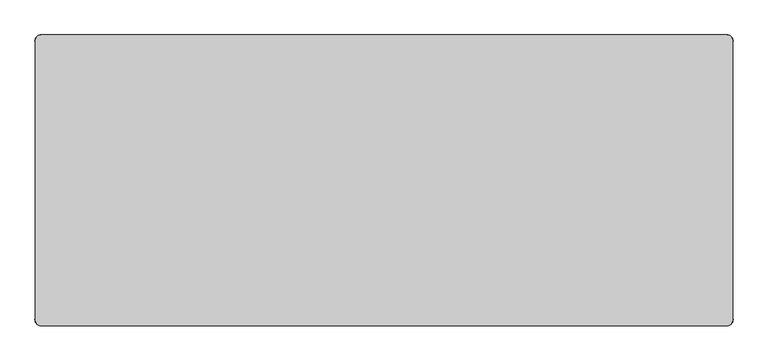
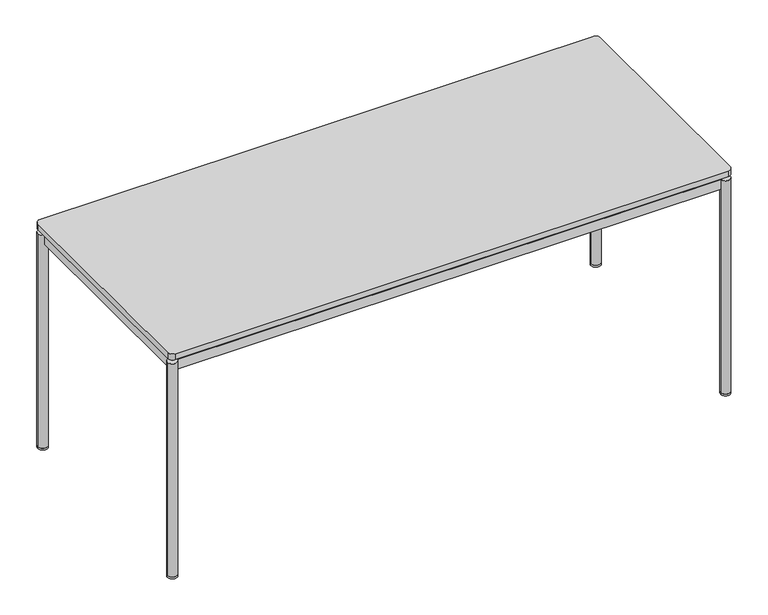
"""IFC4 building model written with IfcOpenShell, lengths in millimetres: furniture geometry, Geiger_GeigerOneCasegoods_TableParsonsStoneTop : 72Wx30Dx29.75H."""

from ifc_helpers import new_model, si_unit, point, frame, frame_2d, origin, origin_with_axes, place, context, project, spatial, polyline, circle_curve, trimmed, segment, composite_curve, outline, extrude, source, transform, mapped, element, save
from ifc_brep_helpers import plane_surface, cylinder_surface, advanced_brep


def furniture_329ff6ae(model_context):
    return source(origin(), model_context, "Body", "SolidModel", [
        extrude(outline(composite_curve([segment(trimmed(circle_curve(frame_2d((1812.925, -15.875)), 15.875), [point((1812.925, 0.0))], [point((1828.8, -15.875))], False, "CARTESIAN"), True, "CONTINUOUS"), segment(polyline([(1828.8, -15.875), (1828.8, -746.125)]), True, "CONTINUOUS"), segment(trimmed(circle_curve(frame_2d((1812.925, -746.125)), 15.875), [point((1828.8, -746.125))], [point((1812.925, -762.0))], False, "CARTESIAN"), True, "CONTINUOUS"), segment(polyline([(1812.925, -762.0), (15.875, -762.0)]), True, "CONTINUOUS"), segment(trimmed(circle_curve(frame_2d((15.875, -746.125)), 15.875), [point((15.875, -762.0))], [point((0.0, -746.125))], False, "CARTESIAN"), True, "CONTINUOUS"), segment(polyline([(0.0, -746.125), (0.0, -15.875)]), True, "CONTINUOUS"), segment(trimmed(circle_curve(frame_2d((15.875, -15.875)), 15.875), [point((0.0, -15.875))], [point((15.875, 0.0))], False, "CARTESIAN"), True, "CONTINUOUS"), segment(polyline([(15.875, 0.0), (1812.925, 0.0)]), True, "CONTINUOUS")], self_intersect=False)), frame((0.0, 0.0, 752.5), z_axis=(0.0, 0.0, 1.0), x_axis=(1.0, 0.0, 0.0)), (0.0, 0.0, 1.0), 20.0),
        advanced_brep(
        [(31.2271945, -15.875, 6.4), (-0.5228055, -15.875, 6.4), (1829.3228055, -15.875, 6.4), (1797.5728055, -15.875, 6.4), (31.2271945, -746.125, 6.4), (-0.5228055, -746.125, 6.4), (1829.3228055, -746.125, 6.4), (1797.5728055, -746.125, 6.4), (30.9300656, -12.8179496, 739.4), (-0.5228055, -15.875, 739.4), (12.2, -31.4338976, 739.4), (12.2, -730.5661024, 739.4), (-0.5228055, -746.125, 739.4), (30.9300656, -749.1820504, 739.4), (1797.8699344, -749.1820504, 739.4), (1829.3228055, -746.125, 739.4), (1816.6, -730.5661024, 739.4), (1816.6, -31.4338976, 739.4), (1829.3228055, -15.875, 739.4), (1797.8699344, -12.8179496, 739.4), (16.0, -746.0, 739.4), (16.0, -16.0, 739.4), (1812.8, -16.0, 739.4), (1812.8, -746.0, 739.4), (1810.1048558, -19.2179496, 739.4), (18.6951442, -19.2179496, 739.4), (18.6951442, -742.7820504, 739.4), (1810.1048558, -742.7820504, 739.4), (1784.7048558, -44.6179496, 739.4), (1784.7048558, -717.3820504, 739.4), (44.0951442, -717.3820504, 739.4), (44.0951442, -44.6179496, 739.4), (30.9300656, -12.8179496, 707.6), (31.2271945, -15.875, 707.6), (30.8712252, -19.2179496, 707.6), (30.8712252, -19.2179496, 733.0), (18.6, -31.4142209, 733.0), (18.6, -31.4142209, 707.6), (12.2, -31.4338976, 707.6), (1797.5728055, -15.875, 707.6), (1797.8699344, -12.8179496, 707.6), (1816.6, -31.4338976, 707.6), (1810.2, -31.4142209, 707.6), (1810.2, -31.4142209, 733.0), (1797.9287748, -19.2179496, 733.0), (1797.9287748, -19.2179496, 707.6), (12.2, -730.5661024, 707.6), (18.6, -730.5857791, 707.6), (18.6, -730.5857791, 733.0), (30.8712252, -742.7820504, 733.0), (30.8712252, -742.7820504, 707.6), (31.2271945, -746.125, 707.6), (30.9300656, -749.1820504, 707.6), (1797.5728055, -746.125, 707.6), (1797.9287748, -742.7820504, 707.6), (1797.9287748, -742.7820504, 733.0), (1810.2, -730.5857791, 733.0), (1810.2, -730.5857791, 707.6), (1816.6, -730.5661024, 707.6), (1797.8699344, -749.1820504, 707.6), (1784.7048558, -44.6179496, 733.0), (1784.7048558, -717.3820504, 733.0), (44.0951442, -717.3820504, 733.0), (44.0951442, -44.6179496, 733.0), (16.0, -16.0, 752.5), (16.0, -746.0, 752.5), (1812.8, -746.0, 752.5), (1812.8, -16.0, 752.5), (18.6951442, -19.2179496, 752.5), (1810.1048558, -19.2179496, 752.5), (1810.1048558, -742.7820504, 752.5), (18.6951442, -742.7820504, 752.5)],
        [
            (0, 1, circle_curve(frame((15.3521945, -15.875, 6.4), z_axis=(0.0, 0.0, -1.0), x_axis=(-1.0, 0.0, 0.0)), 15.875)),
            (1, 0, circle_curve(frame((15.3521945, -15.875, 6.4), z_axis=(0.0, 0.0, -1.0), x_axis=(-1.0, 0.0, 0.0)), 15.875)),
            (2, 3, circle_curve(frame((1813.4478055, -15.875, 6.4), z_axis=(0.0, 0.0, -1.0), x_axis=(-1.0, 0.0, 0.0)), 15.875)),
            (3, 2, circle_curve(frame((1813.4478055, -15.875, 6.4), z_axis=(0.0, 0.0, -1.0), x_axis=(-1.0, 0.0, 0.0)), 15.875)),
            (4, 5, circle_curve(frame((15.3521945, -746.125, 6.4), z_axis=(0.0, 0.0, -1.0), x_axis=(-1.0, 0.0, 0.0)), 15.875)),
            (5, 4, circle_curve(frame((15.3521945, -746.125, 6.4), z_axis=(0.0, 0.0, -1.0), x_axis=(-1.0, 0.0, 0.0)), 15.875)),
            (6, 7, circle_curve(frame((1813.4478055, -746.125, 6.4), z_axis=(0.0, 0.0, -1.0), x_axis=(-1.0, 0.0, 0.0)), 15.875)),
            (7, 6, circle_curve(frame((1813.4478055, -746.125, 6.4), z_axis=(0.0, 0.0, -1.0), x_axis=(-1.0, 0.0, 0.0)), 15.875)),
            (8, 9, circle_curve(frame((15.3521945, -15.875, 739.4), z_axis=(0.0, 0.0, 1.0), x_axis=(-1.0, 0.0, 0.0)), 15.875)),
            (9, 10, circle_curve(frame((15.3521945, -15.875, 739.4), z_axis=(0.0, 0.0, 1.0), x_axis=(-1.0, 0.0, 0.0)), 15.875)),
            (10, 11),
            (11, 12, circle_curve(frame((15.3521945, -746.125, 739.4), z_axis=(0.0, 0.0, 1.0), x_axis=(-1.0, 0.0, 0.0)), 15.875)),
            (12, 13, circle_curve(frame((15.3521945, -746.125, 739.4), z_axis=(0.0, 0.0, 1.0), x_axis=(-1.0, 0.0, 0.0)), 15.875)),
            (13, 14),
            (14, 15, circle_curve(frame((1813.4478055, -746.125, 739.4), z_axis=(0.0, 0.0, 1.0), x_axis=(-1.0, 0.0, 0.0)), 15.875)),
            (15, 16, circle_curve(frame((1813.4478055, -746.125, 739.4), z_axis=(0.0, 0.0, 1.0), x_axis=(-1.0, 0.0, 0.0)), 15.875)),
            (16, 17),
            (17, 18, circle_curve(frame((1813.4478055, -15.875, 739.4), z_axis=(0.0, 0.0, 1.0), x_axis=(-1.0, 0.0, 0.0)), 15.875)),
            (18, 19, circle_curve(frame((1813.4478055, -15.875, 739.4), z_axis=(0.0, 0.0, 1.0), x_axis=(-1.0, 0.0, 0.0)), 15.875)),
            (19, 8),
            (20, 21),
            (21, 22),
            (22, 23),
            (23, 20),
            (24, 25),
            (25, 26),
            (26, 27),
            (27, 24),
            (28, 29),
            (29, 30),
            (30, 31),
            (31, 28),
            (1, 9),
            (8, 32),
            (32, 33, circle_curve(frame((15.3521945, -15.875, 707.6), z_axis=(0.0, 0.0, -1.0), x_axis=(-1.0, 0.0, 0.0)), 15.875)),
            (33, 0),
            (33, 34, circle_curve(frame((15.3521945, -15.875, 707.6), z_axis=(0.0, 0.0, -1.0), x_axis=(-1.0, 0.0, 0.0)), 15.875)),
            (34, 35),
            (35, 36, circle_curve(frame((15.3521945, -15.875, 733.0), z_axis=(0.0, 0.0, -1.0), x_axis=(-1.0, 0.0, 0.0)), 15.875)),
            (36, 37),
            (37, 38, circle_curve(frame((15.3521945, -15.875, 707.6), z_axis=(0.0, 0.0, -1.0), x_axis=(-1.0, 0.0, 0.0)), 15.875)),
            (38, 10),
            (3, 39),
            (39, 40, circle_curve(frame((1813.4478055, -15.875, 707.6), z_axis=(0.0, 0.0, -1.0), x_axis=(-1.0, 0.0, 0.0)), 15.875)),
            (40, 19),
            (18, 2),
            (17, 41),
            (41, 42, circle_curve(frame((1813.4478055, -15.875, 707.6), z_axis=(0.0, 0.0, -1.0), x_axis=(-1.0, 0.0, 0.0)), 15.875)),
            (42, 43),
            (43, 44, circle_curve(frame((1813.4478055, -15.875, 733.0), z_axis=(0.0, 0.0, -1.0), x_axis=(-1.0, 0.0, 0.0)), 15.875)),
            (44, 45),
            (45, 39, circle_curve(frame((1813.4478055, -15.875, 707.6), z_axis=(0.0, 0.0, -1.0), x_axis=(-1.0, 0.0, 0.0)), 15.875)),
            (5, 12),
            (11, 46),
            (46, 47, circle_curve(frame((15.3521945, -746.125, 707.6), z_axis=(0.0, 0.0, -1.0), x_axis=(-1.0, 0.0, 0.0)), 15.875)),
            (47, 48),
            (48, 49, circle_curve(frame((15.3521945, -746.125, 733.0), z_axis=(0.0, 0.0, -1.0), x_axis=(-1.0, 0.0, 0.0)), 15.875)),
            (49, 50),
            (50, 51, circle_curve(frame((15.3521945, -746.125, 707.6), z_axis=(0.0, 0.0, -1.0), x_axis=(-1.0, 0.0, 0.0)), 15.875)),
            (51, 4),
            (51, 52, circle_curve(frame((15.3521945, -746.125, 707.6), z_axis=(0.0, 0.0, -1.0), x_axis=(-1.0, 0.0, 0.0)), 15.875)),
            (52, 13),
            (7, 53),
            (53, 54, circle_curve(frame((1813.4478055, -746.125, 707.6), z_axis=(0.0, 0.0, -1.0), x_axis=(-1.0, 0.0, 0.0)), 15.875)),
            (54, 55),
            (55, 56, circle_curve(frame((1813.4478055, -746.125, 733.0), z_axis=(0.0, 0.0, -1.0), x_axis=(-1.0, 0.0, 0.0)), 15.875)),
            (56, 57),
            (57, 58, circle_curve(frame((1813.4478055, -746.125, 707.6), z_axis=(0.0, 0.0, -1.0), x_axis=(-1.0, 0.0, 0.0)), 15.875)),
            (58, 16),
            (15, 6),
            (14, 59),
            (59, 53, circle_curve(frame((1813.4478055, -746.125, 707.6), z_axis=(0.0, 0.0, -1.0), x_axis=(-1.0, 0.0, 0.0)), 15.875)),
            (46, 38),
            (37, 47),
            (32, 40),
            (45, 34),
            (41, 58),
            (57, 42),
            (59, 52),
            (50, 54),
            (44, 35),
            (56, 43),
            (49, 55),
            (36, 48),
            (28, 60),
            (60, 61),
            (61, 29),
            (61, 62),
            (62, 30),
            (62, 63),
            (63, 31),
            (63, 60),
            (64, 65),
            (65, 66),
            (66, 67),
            (67, 64),
            (68, 69),
            (69, 70),
            (70, 71),
            (71, 68),
            (64, 21),
            (20, 65),
            (23, 66),
            (22, 67),
            (68, 25),
            (24, 69),
            (27, 70),
            (26, 71),
        ],
        [
            plane_surface(frame((-0.5228055, -15.875, 6.4), z_axis=(0.0, 0.0, -1.0), x_axis=(0.0, 1.0, 0.0))),
            plane_surface(frame((-0.5228055, -15.875, 739.4), z_axis=(0.0, 0.0, 1.0), x_axis=(0.0, -1.0, 0.0))),
            cylinder_surface(frame((15.3521945, -15.875, 6.4), z_axis=(0.0, 0.0, 1.0), x_axis=(-1.0, 0.0, 0.0)), 15.875),
            cylinder_surface(frame((1813.4478055, -15.875, 739.4), z_axis=(0.0, 0.0, 1.0), x_axis=(-1.0, 0.0, 0.0)), 15.875),
            cylinder_surface(frame((15.3521945, -746.125, 739.4), z_axis=(0.0, 0.0, 1.0), x_axis=(-1.0, 0.0, 0.0)), 15.875),
            cylinder_surface(frame((1813.4478055, -746.125, 739.4), z_axis=(0.0, 0.0, 1.0), x_axis=(-1.0, 0.0, 0.0)), 15.875),
            plane_surface(frame((1816.6, -749.1820504, 707.6), z_axis=(0.0, 0.0, -1.0), x_axis=(-1.0, 0.0, 0.0))),
            plane_surface(frame((12.2, -749.1820504, 739.4), z_axis=(0.0, -1.0, 0.0), x_axis=(0.0, 0.0, -1.0))),
            plane_surface(frame((1816.6, -749.1820504, 739.4), z_axis=(1.0, 0.0, 0.0), x_axis=(0.0, 0.0, -1.0))),
            plane_surface(frame((1816.6, -12.8179496, 739.4), z_axis=(0.0, 1.0, 0.0), x_axis=(0.0, 0.0, -1.0))),
            plane_surface(frame((12.2, -12.8179496, 739.4), z_axis=(-1.0, 0.0, 0.0), x_axis=(0.0, 0.0, -1.0))),
            plane_surface(frame((18.6, -19.2179496, 739.4), z_axis=(0.0, -1.0, 0.0), x_axis=(0.0, 0.0, -1.0))),
            plane_surface(frame((1810.2, -19.2179496, 739.4), z_axis=(-1.0, 0.0, 0.0), x_axis=(0.0, 0.0, -1.0))),
            plane_surface(frame((1810.2, -742.7820504, 739.4), z_axis=(0.0, 1.0, 0.0), x_axis=(0.0, 0.0, -1.0))),
            plane_surface(frame((18.6, -742.7820504, 739.4), z_axis=(1.0, 0.0, 0.0), x_axis=(0.0, 0.0, -1.0))),
            plane_surface(frame((1784.7048558, -44.6179496, 733.0), z_axis=(-1.0, 0.0, 0.0), x_axis=(0.0, -1.0, 0.0))),
            plane_surface(frame((1784.7048558, -717.3820504, 733.0), z_axis=(0.0, 1.0, 0.0), x_axis=(-1.0, 0.0, 0.0))),
            plane_surface(frame((44.0951442, -717.3820504, 733.0), z_axis=(1.0, 0.0, 0.0), x_axis=(0.0, 1.0, 0.0))),
            plane_surface(frame((44.0951442, -44.6179496, 733.0), z_axis=(0.0, -1.0, 0.0), x_axis=(1.0, 0.0, 0.0))),
            plane_surface(frame((18.6951442, -19.2179496, 733.0), z_axis=(0.0, 0.0, -1.0), x_axis=(1.0, 0.0, 0.0))),
            plane_surface(frame((16.0, -16.0, 752.5), z_axis=(0.0, 0.0, 1.0), x_axis=(0.0, -1.0, 0.0))),
            plane_surface(frame((16.0, -16.0, 752.5), z_axis=(-1.0, 0.0, 0.0), x_axis=(0.0, 0.0, -1.0))),
            plane_surface(frame((16.0, -746.0, 752.5), z_axis=(0.0, -1.0, 0.0), x_axis=(0.0, 0.0, -1.0))),
            plane_surface(frame((1812.8, -746.0, 752.5), z_axis=(1.0, 0.0, 0.0), x_axis=(0.0, 0.0, -1.0))),
            plane_surface(frame((1812.8, -16.0, 752.5), z_axis=(0.0, 1.0, 0.0), x_axis=(0.0, 0.0, -1.0))),
            plane_surface(frame((18.6951442, -19.2179496, 752.5), z_axis=(0.0, -1.0, 0.0), x_axis=(0.0, 0.0, -1.0))),
            plane_surface(frame((1810.1048558, -19.2179496, 752.5), z_axis=(-1.0, 0.0, 0.0), x_axis=(0.0, 0.0, -1.0))),
            plane_surface(frame((1810.1048558, -742.7820504, 752.5), z_axis=(0.0, 1.0, 0.0), x_axis=(0.0, 0.0, -1.0))),
            plane_surface(frame((18.6951442, -742.7820504, 752.5), z_axis=(1.0, 0.0, 0.0), x_axis=(0.0, 0.0, -1.0))),
        ],
        [
            (0, [[1, 2]]),
            (0, [[3, 4]]),
            (0, [[5, 6]]),
            (0, [[7, 8]]),
            (1, [[9, 10, 11, 12, 13, 14, 15, 16, 17, 18, 19, 20], [21, 22, 23, 24]]),
            (1, [[25, 26, 27, 28], [29, 30, 31, 32]]),
            (2, [[-2, 33, -9, 34, 35, 36]]),
            (2, [[-1, -36, 37, 38, 39, 40, 41, 42, -10, -33]]),
            (3, [[-4, 43, 44, 45, -19, 46]]),
            (3, [[-3, -46, -18, 47, 48, 49, 50, 51, 52, -43]]),
            (4, [[-6, 53, -12, 54, 55, 56, 57, 58, 59, 60]]),
            (4, [[-5, -60, 61, 62, -13, -53]]),
            (5, [[-8, 63, 64, 65, 66, 67, 68, 69, -16, 70]]),
            (5, [[-7, -70, -15, 71, 72, -63]]),
            (6, [[73, -41, 74, -55]]),
            (6, [[75, -44, -52, 76, -37, -35]]),
            (6, [[77, -68, 78, -48]]),
            (6, [[79, -61, -59, 80, -64, -72]]),
            (7, [[-14, -62, -79, -71]]),
            (8, [[-17, -69, -77, -47]]),
            (9, [[-20, -45, -75, -34]]),
            (10, [[-11, -42, -73, -54]]),
            (11, [[-76, -51, 81, -38]]),
            (12, [[-78, -67, 82, -49]]),
            (13, [[-80, -58, 83, -65]]),
            (14, [[-74, -40, 84, -56]]),
            (15, [[85, 86, 87, -29]]),
            (16, [[-87, 88, 89, -30]]),
            (17, [[-89, 90, 91, -31]]),
            (18, [[-85, -32, -91, 92]]),
            (19, [[-39, -81, -50, -82, -66, -83, -57, -84], [-86, -92, -90, -88]]),
            (20, [[93, 94, 95, 96], [97, 98, 99, 100]]),
            (21, [[-93, 101, -21, 102]]),
            (22, [[-94, -102, -24, 103]]),
            (23, [[-95, -103, -23, 104]]),
            (24, [[-96, -104, -22, -101]]),
            (25, [[-97, 105, -25, 106]]),
            (26, [[-98, -106, -28, 107]]),
            (27, [[-99, -107, -27, 108]]),
            (28, [[-100, -108, -26, -105]]),
        ],
    ),
        extrude(outline(composite_curve([segment(trimmed(circle_curve(frame_2d((15.3521945, -15.875)), 15.875), [point((-0.5228055, -15.875))], [point((31.2271945, -15.875))], False, "CARTESIAN"), True, "CONTINUOUS"), segment(trimmed(circle_curve(frame_2d((15.3521945, -15.875)), 15.875), [point((31.2271945, -15.875))], [point((-0.5228055, -15.875))], False, "CARTESIAN"), True, "CONTINUOUS")], self_intersect=False)), origin_with_axes(), (0.0, 0.0, 1.0), 6.4),
        extrude(outline(composite_curve([segment(trimmed(circle_curve(frame_2d((1813.4478055, -15.875)), 15.875), [point((1797.5728055, -15.875))], [point((1829.3228055, -15.875))], False, "CARTESIAN"), True, "CONTINUOUS"), segment(trimmed(circle_curve(frame_2d((1813.4478055, -15.875)), 15.875), [point((1829.3228055, -15.875))], [point((1797.5728055, -15.875))], False, "CARTESIAN"), True, "CONTINUOUS")], self_intersect=False)), origin_with_axes(), (0.0, 0.0, 1.0), 6.4),
        extrude(outline(composite_curve([segment(trimmed(circle_curve(frame_2d((1813.4478055, -746.125)), 15.875), [point((1797.5728055, -746.125))], [point((1829.3228055, -746.125))], False, "CARTESIAN"), True, "CONTINUOUS"), segment(trimmed(circle_curve(frame_2d((1813.4478055, -746.125)), 15.875), [point((1829.3228055, -746.125))], [point((1797.5728055, -746.125))], False, "CARTESIAN"), True, "CONTINUOUS")], self_intersect=False)), origin_with_axes(), (0.0, 0.0, 1.0), 6.4),
        extrude(outline(composite_curve([segment(trimmed(circle_curve(frame_2d((15.3521945, -746.125)), 15.875), [point((-0.5228055, -746.125))], [point((31.2271945, -746.125))], False, "CARTESIAN"), True, "CONTINUOUS"), segment(trimmed(circle_curve(frame_2d((15.3521945, -746.125)), 15.875), [point((31.2271945, -746.125))], [point((-0.5228055, -746.125))], False, "CARTESIAN"), True, "CONTINUOUS")], self_intersect=False)), origin_with_axes(), (0.0, 0.0, 1.0), 6.4),
    ])


if __name__ == "__main__":
    model = new_model("IFC4")
    model_context = context("Model", 3, world=origin())
    ifc_project = project(units=[si_unit("LENGTHUNIT", "METRE", prefix="MILLI")], contexts=[model_context])
    site = spatial("IfcSite", under=ifc_project)
    building = spatial("IfcBuilding", under=site)
    placement = place(None, origin())
    furniture_shape = furniture_329ff6ae(model_context)
    element("IfcFurniture", 1, ObjectType="Geiger_GeigerOneCasegoods_TableParsonsStoneTop : 72Wx30Dx29.75H", at=placement, inside=building, context=model_context, shape_type="MappedRepresentation", body=[
        mapped(furniture_shape, transform((0.0, 0.0, 0.0), x_axis=(1.0, 0.0, 0.0), y_axis=(0.0, 1.0, 0.0), z_axis=(0.0, 0.0, 1.0))),
    ])
    save(model, "model.ifc")
